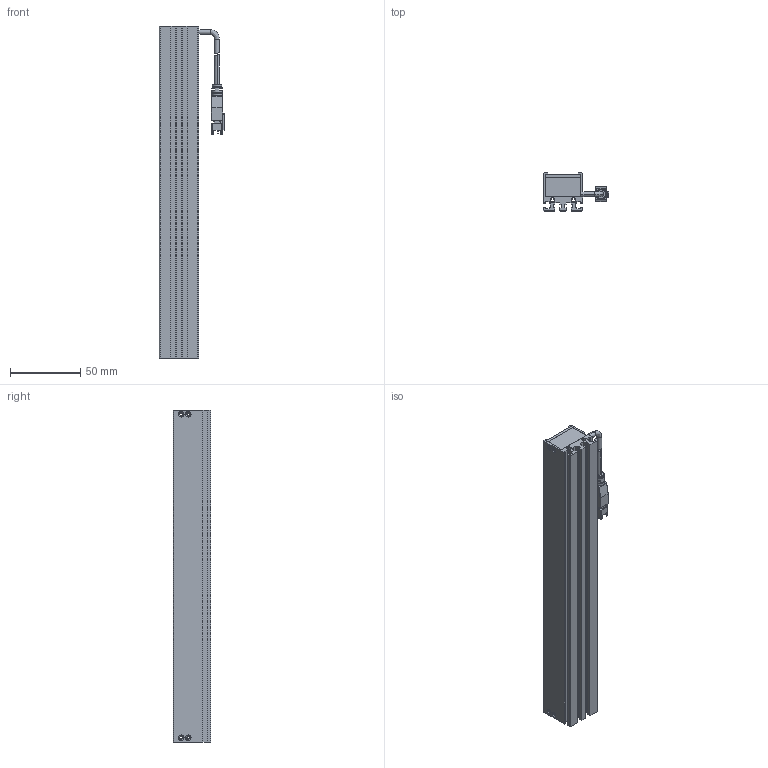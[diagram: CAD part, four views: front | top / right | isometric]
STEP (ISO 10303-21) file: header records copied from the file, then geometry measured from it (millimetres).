
FILE_DESCRIPTION (( 'STEP AP203' ), '1' );
FILE_NAME ('CST-2BS23728-¼òÒ×3DÍ¼.STEP', '2021-06-15T06:43:08', ( '' ), ( '' ), 'SwSTEP 2.0', 'SolidWorks 2018', '' );
FILE_SCHEMA (( 'CONFIG_CONTROL_DESIGN' ));
Length unit declared in the file: millimetre
Products named in the file (1): CST-2BS23728-潠眢3D芞
Bounding box: 46.62 x 27 x 237 mm (x, y, z)
Surface area: 85322.5 mm2 (no closed solid volume)
Topology: 0 solids, 11 shells, 514 faces, 1390 edges, 881 vertices
Faces by surface type: plane 275, cylinder 154, cone 51, bspline 28, torus 6
Entity records: 16667 total; most frequent: CARTESIAN_POINT 3826, ORIENTED_EDGE 2693, DIRECTION 2601, EDGE_CURVE 1370, VECTOR 929, LINE 929, VERTEX_POINT 881, AXIS2_PLACEMENT_3D 836
